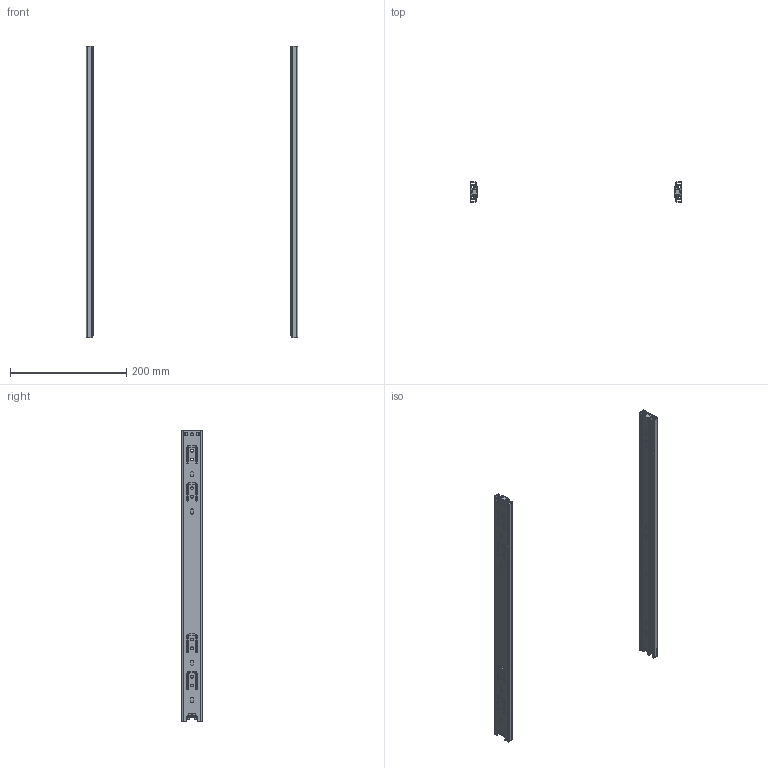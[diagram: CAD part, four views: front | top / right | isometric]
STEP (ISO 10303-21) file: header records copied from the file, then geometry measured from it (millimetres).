
FILE_DESCRIPTION(/* description */ (''),/* implementation_level */ '2;1');
FILE_NAME(/* name */ 'D:\$Workingspace\Designs\Katalog\Cadsoft\GTV Prowadnice\Prowadnice GTV_bryły 3D\PK-0H35-5000.stp',/* time_stamp */ '2016-11-22T11:20:55+01:00',/* author */ ('tomaszw'),/* organization */ (''),/* preprocessor_version */ 'ST-DEVELOPER v16.1',/* originating_system */ 'Autodesk Inventor 2016',/* authorisation */ '');
FILE_SCHEMA (('AUTOMOTIVE_DESIGN { 1 0 10303 214 3 1 1 }'));
Length unit declared in the file: millimetre
Products named in the file (5): PK-0H35_1-500; PK-0H35_2-500; PK-0H35_3-500; Blokada_3; PK-0H35
Assembly tree (8 placements, depth 2):
  PK-0H35
    PK-0H35_1-500  x2
    PK-0H35_2-500  x2
    PK-0H35_3-500  x2
    Blokada_3  x2
Bounding box: 364 x 34.8 x 500 mm (x, y, z)
Volume: 104902.6 mm3; surface area: 253733.7 mm2
Topology: 8 solids, 8 shells, 502 faces, 1458 edges, 972 vertices
Faces by surface type: plane 252, cylinder 250
Full cylindrical faces by diameter (mm): 4.5 x16, 5 x10
Entity records: 8819 total; most frequent: DIRECTION 1486, CARTESIAN_POINT 1484, ORIENTED_EDGE 1432, EDGE_CURVE 716, AXIS2_PLACEMENT_3D 510, VERTEX_POINT 486, LINE 466, VECTOR 466
